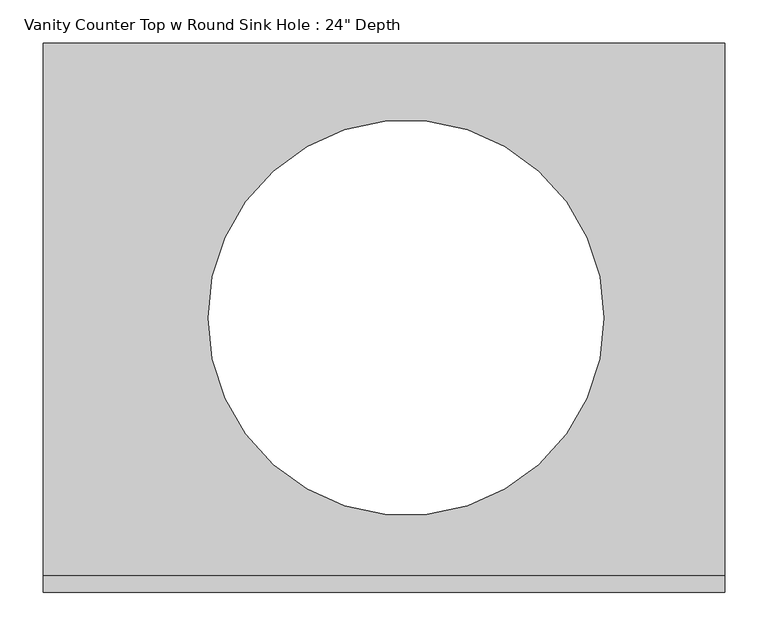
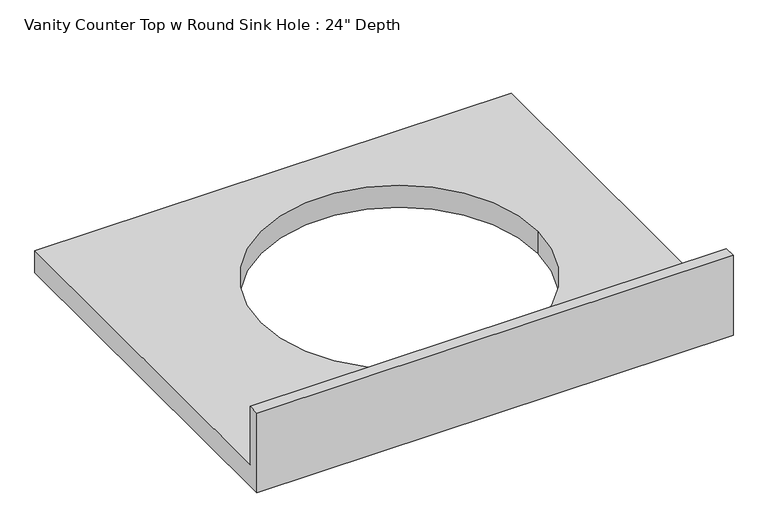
"""IFC4 building model written with IfcOpenShell, lengths in millimetres: furniture geometry."""

from ifc_helpers import new_model, si_unit, frame, origin, place, context, project, spatial, polyline, circle_curve, source, transform, mapped, element, save
from ifc_brep_helpers import plane_surface, revolved_surface, advanced_brep


def furniture_dc82221e(model_context):
    return source(origin(), model_context, "Body", "AdvancedBrep", [
        advanced_brep(
        [(-1327.4622951, 635.0, 787.4), (-1327.4622951, 19.05, 787.4), (-540.0622951, 19.05, 787.4), (-540.0622951, 635.0, 787.4), (-679.756128, 317.5, 787.4), (-1136.956128, 317.5, 787.4), (-540.0622951, 0.0, 749.3), (-1327.4622951, 0.0, 749.3), (-1327.4622951, 635.0, 749.3), (-540.0622951, 635.0, 749.3), (-1136.956128, 317.5, 749.3), (-679.756128, 317.5, 749.3), (-540.0622951, 0.0, 889.0), (-1327.4622951, 0.0, 889.0), (-1327.4622951, 19.05, 889.0), (-540.0622951, 19.05, 889.0)],
        [
            (0, 1),
            (1, 2),
            (2, 3),
            (3, 0),
            (4, 5, circle_curve(frame((-908.356128, 317.5, 787.4), z_axis=(0.0, 0.0, -1.0), x_axis=(1.0, 0.0, 0.0)), 228.6)),
            (5, 4, circle_curve(frame((-908.356128, 317.5, 787.4), z_axis=(0.0, 0.0, -1.0), x_axis=(1.0, 0.0, 0.0)), 228.6)),
            (6, 7),
            (7, 8),
            (8, 9),
            (9, 6),
            (10, 11, circle_curve(frame((-908.356128, 317.5, 749.3), z_axis=(0.0, 0.0, 1.0), x_axis=(1.0, 0.0, 0.0)), 228.6)),
            (11, 10, circle_curve(frame((-908.356128, 317.5, 749.3), z_axis=(0.0, 0.0, 1.0), x_axis=(1.0, 0.0, 0.0)), 228.6)),
            (6, 12),
            (12, 13),
            (13, 7),
            (13, 14),
            (14, 1),
            (0, 8),
            (3, 9),
            (2, 15),
            (15, 12),
            (15, 14),
            (5, 10),
            (11, 4),
        ],
        [
            plane_surface(frame((-1327.4622951, 0.0, 787.4), z_axis=(0.0, 0.0, 1.0), x_axis=(-1.0, 0.0, 0.0))),
            plane_surface(frame((-1327.4622951, 0.0, 749.3), z_axis=(0.0, 0.0, -1.0), x_axis=(1.0, 0.0, 0.0))),
            plane_surface(frame((-540.0622951, 0.0, 787.4), z_axis=(0.0, -1.0, 0.0), x_axis=(0.0, 0.0, -1.0))),
            plane_surface(frame((-1327.4622951, 0.0, 787.4), z_axis=(-1.0, 0.0, 0.0), x_axis=(0.0, 0.0, -1.0))),
            plane_surface(frame((-1327.4622951, 635.0, 787.4), z_axis=(0.0, 1.0, 0.0), x_axis=(0.0, 0.0, -1.0))),
            plane_surface(frame((-540.0622951, 635.0, 787.4), z_axis=(1.0, 0.0, 0.0), x_axis=(0.0, 0.0, -1.0))),
            plane_surface(frame((-1327.4622951, 0.0, 889.0), z_axis=(0.0, 0.0, 1.0), x_axis=(0.0, 1.0, 0.0))),
            plane_surface(frame((-1327.4622951, 19.05, 889.0), z_axis=(0.0, 1.0, 0.0), x_axis=(0.0, 0.0, -1.0))),
            revolved_surface(polyline([(-679.756128, 317.5, 787.4), (-679.756128, 317.5, 749.3)]), (-908.356128, 317.5, 749.3), (0.0, 0.0, 1.0)),
        ],
        [
            (0, [[1, 2, 3, 4], [5, 6]]),
            (1, [[7, 8, 9, 10], [11, 12]]),
            (2, [[13, 14, 15, -7]]),
            (3, [[-15, 16, 17, -1, 18, -8]]),
            (4, [[19, -9, -18, -4]]),
            (5, [[-19, -3, 20, 21, -13, -10]]),
            (6, [[-14, -21, 22, -16]]),
            (7, [[-20, -2, -17, -22]]),
            (8, [[-6, 23, -12, 24]]),
            (8, [[-11, -23, -5, -24]]),
        ],
    ),
    ])


if __name__ == "__main__":
    model = new_model("IFC4")
    model_context = context("Model", 3, world=origin())
    ifc_project = project(units=[si_unit("LENGTHUNIT", "METRE", prefix="MILLI")], contexts=[model_context])
    site = spatial("IfcSite", under=ifc_project)
    building = spatial("IfcBuilding", under=site)
    placement = place(None, origin())
    furniture_shape = furniture_dc82221e(model_context)
    element("IfcFurniture", 1, ObjectType="Vanity Counter Top w Round Sink Hole : 24\" Depth", at=placement, inside=building, context=model_context, shape_type="MappedRepresentation", body=[
        mapped(furniture_shape, transform((0.0, 0.0, 0.0), x_axis=(1.0, 0.0, 0.0), y_axis=(0.0, 1.0, 0.0), z_axis=(0.0, 0.0, 1.0))),
    ])
    save(model, "model.ifc")
